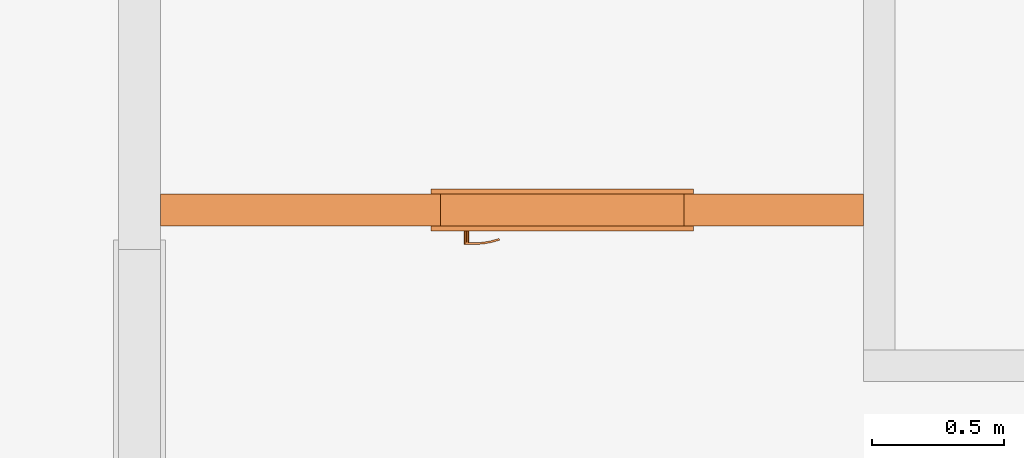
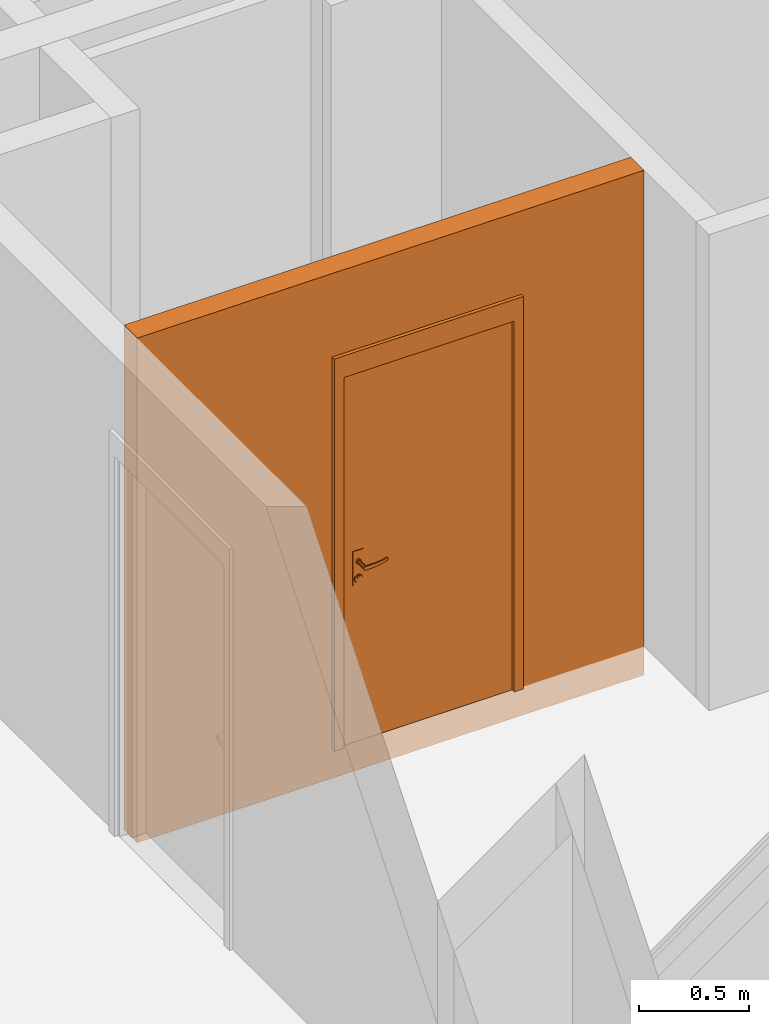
# One storey, part 36 of 67: 2 proxies, 1 opening.
"""IFC2X3 building model written with IfcOpenShell, lengths in millimetres."""

from ifc_helpers import new_model, entity, si_unit, converted_unit, derived_unit, money_unit, direction, frame, origin_with_axes, origin_2d_with_axis, place, context, subcontext, project, spatial, rectangle, extrude, open_shell, faceted_brep, surface_model, source, transform, mapped, material, type_object, element, fill, save


model = new_model("IFC2X3")

# Units and contexts
model_context = context("Model", 3, precision=0.01, world=origin_with_axes(), true_north=direction((0.34421633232, 0.938890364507)))
body_context = subcontext(model_context, "Body", "Model", "MODEL_VIEW")
ifc_project = project(units=[si_unit("LENGTHUNIT", "METRE", prefix="MILLI"), si_unit("AREAUNIT", "SQUARE_METRE"), si_unit("VOLUMEUNIT", "CUBIC_METRE"), converted_unit("PLANEANGLEUNIT", "DEGREE", entity("IfcPlaneAngleMeasure", 0.0174532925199), si_unit("PLANEANGLEUNIT", "RADIAN"), dimensions=[0, 0, 0, 0, 0, 0, 0]), si_unit("SOLIDANGLEUNIT", "STERADIAN"), money_unit("USD"), converted_unit("TIMEUNIT", "Year", entity("IfcTimeMeasure", 31556926.0), si_unit("TIMEUNIT", "SECOND"), dimensions=[0, 0, 1, 0, 0, 0, 0]), si_unit("MASSUNIT", "GRAM", prefix="KILO"), si_unit("THERMODYNAMICTEMPERATUREUNIT", "DEGREE_CELSIUS"), si_unit("LUMINOUSINTENSITYUNIT", "LUMEN"), si_unit("ENERGYUNIT", "JOULE", prefix="MEGA"), derived_unit("THERMALCONDUCTANCEUNIT", [(si_unit("POWERUNIT", "WATT"), 1), (si_unit("LENGTHUNIT", "METRE"), -1), (si_unit("THERMODYNAMICTEMPERATUREUNIT", "KELVIN"), -1)]), derived_unit("SPECIFICHEATCAPACITYUNIT", [(si_unit("ENERGYUNIT", "JOULE"), 1), (si_unit("MASSUNIT", "GRAM", prefix="KILO"), -1), (si_unit("THERMODYNAMICTEMPERATUREUNIT", "KELVIN"), -1)]), derived_unit("MASSDENSITYUNIT", [(si_unit("MASSUNIT", "GRAM", prefix="KILO"), 1), (si_unit("VOLUMEUNIT", "CUBIC_METRE"), -1)])], contexts=[model_context])

# Site, building, storey
site_placement = place(None, origin_with_axes())
site = spatial("IfcSite", under=ifc_project, at=site_placement, Name="USTRONIE MORSKIE", CompositionType="ELEMENT")
building_placement = place(site_placement, origin_with_axes())
building = spatial("IfcBuilding", under=site, at=building_placement, Name="Budynek", CompositionType="ELEMENT")
storey_placement = place(building_placement, frame((0.0, 0.0, 4000.0), z_axis=(0.0, 0.0, 1.0), x_axis=(1.0, 0.0, 0.0)))
storey = spatial("IfcBuildingStorey", under=building, at=storey_placement, Name="PIĘTRO 1", CompositionType="ELEMENT", Elevation=4000.0)

# Proxies, opening
ifc_material = material(Name="Bloczki silikatowe")
building_element_proxy_type_1 = type_object("IfcBuildingElementProxyType", Name="Bloczki silikatowe 120", PredefinedType="NOTDEFINED")
proxy_1_placement = place(storey_placement, frame((420917.920919, 724641.179437, -160.0), z_axis=(0.0, 0.0, 1.0), x_axis=(-1.0, 0.0, 0.0)))
proxy_1 = element("IfcBuildingElementProxy", 1, at=proxy_1_placement, inside=storey, type_object=building_element_proxy_type_1, material=ifc_material, Name="SW-04", context=body_context, shape_type="Brep", body=[
    faceted_brep([(2720.0, 59.9999999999, 0.0), (2720.0, -59.9999999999, 0.0), (60.0, -59.9999999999, 0.0), (60.0, 59.9999999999, 0.0), (2720.0, 59.9999999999, 2800.0), (2720.0, -59.9999999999, 2800.0), (60.0, -59.9999999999, 2800.0), (60.0, 59.9999999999, 2800.0)], [[[0, 1, 2, 3]], [[1, 0, 4, 5]], [[1, 5, 6, 2]], [[7, 3, 2, 6]], [[4, 0, 3, 7]], [[5, 4, 7, 6]]]),
])
opening_placement = place(proxy_1_placement, frame((1200.0, 1.13686837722e-10, 160.0), z_axis=(0.0, 0.0, 1.0), x_axis=(1.0, 0.0, 0.0)))
opening = element("IfcOpeningElement", 2, at=opening_placement, cuts=proxy_1, Name="Dw.4", context=body_context, shape_type="SweptSolid", body=[
    extrude(rectangle(XDim=920.0, YDim=2070.0, at=origin_2d_with_axis()), frame((0.0, -120.0, 1035.0), z_axis=(0.0, -1.0, 0.0), x_axis=(-1.0, 0.0, 0.0)), (0.0, 0.0, -1.0), 360.0),
    extrude(rectangle(XDim=994.0, YDim=2177.0, at=origin_2d_with_axis()), frame((0.0, -59.9999999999, 1088.5), z_axis=(0.0, -1.0, 0.0), x_axis=(-1.0, 0.0, 0.0)), (0.0, 0.0, 1.0), 120.0),
    extrude(rectangle(XDim=994.0, YDim=2177.0, at=origin_2d_with_axis()), frame((0.0, 60.0000000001, 1088.5), z_axis=(0.0, 1.0, 0.0), x_axis=(-1.0, 0.0, 0.0)), (0.0, 0.0, 1.0), 120.0),
])
building_element_proxy_type_2 = type_object("IfcBuildingElementProxyType", Name="Drzwi 23", PredefinedType="NOTDEFINED")
shared_shape = source(origin_with_axes(), body_context, "Body", "SurfaceModel", [
    faceted_brep([(460.0, -115.0, 0.0), (460.0, -120.0, 0.0), (435.0, -120.0, 0.0), (435.0, -115.0, 0.0), (460.0, -115.0, 2070.0), (460.0, -120.0, 2070.0), (435.0, -120.0, 2045.0), (435.0, -115.0, 2045.0)], [[[0, 1, 2, 3]], [[4, 5, 1, 0]], [[1, 5, 6, 2]], [[3, 2, 6, 7]], [[0, 3, 7, 4]], [[7, 6, 5, 4]]]),
    faceted_brep([(-460.0, -115.0, 2070.0), (-460.0, -120.0, 2070.0), (-435.0, -120.0, 2045.0), (-435.0, -115.0, 2045.0), (-460.0, -115.0, 0.0), (-460.0, -120.0, 0.0), (-435.0, -120.0, 0.0), (-435.0, -115.0, 0.0)], [[[0, 1, 2, 3]], [[4, 5, 1, 0]], [[1, 5, 6, 2]], [[3, 2, 6, 7]], [[0, 3, 7, 4]], [[7, 6, 5, 4]]]),
    faceted_brep([(435.0, -115.0, 2045.0), (435.0, -120.0, 2045.0), (-435.0, -120.0, 2045.0), (-435.0, -115.0, 2045.0), (460.0, -115.0, 2070.0), (460.0, -120.0, 2070.0), (-460.0, -120.0, 2070.0), (-460.0, -115.0, 2070.0)], [[[0, 1, 2, 3]], [[4, 5, 1, 0]], [[1, 5, 6, 2]], [[3, 2, 6, 7]], [[0, 3, 7, 4]], [[7, 6, 5, 4]]]),
    faceted_brep([(497.0, -139.0, 0.0), (447.0, -139.0, 0.0), (447.0, -120.0, 0.0), (497.0, -120.0, 0.0), (497.0, -139.0, 2177.0), (447.0, -139.0, 2057.0), (447.0, -120.0, 2057.0), (497.0, -120.0, 2177.0)], [[[0, 1, 2, 3]], [[0, 4, 5, 1]], [[1, 5, 6, 2]], [[3, 2, 6, 7]], [[4, 0, 3, 7]], [[5, 4, 7, 6]]]),
    faceted_brep([(-497.0, -139.0, 2177.0), (-447.0, -139.0, 2057.0), (-447.0, -120.0, 2057.0), (-497.0, -120.0, 2177.0), (-497.0, -139.0, 0.0), (-447.0, -139.0, 0.0), (-447.0, -120.0, 0.0), (-497.0, -120.0, 0.0)], [[[0, 1, 2, 3]], [[0, 4, 5, 1]], [[1, 5, 6, 2]], [[3, 2, 6, 7]], [[4, 0, 3, 7]], [[5, 4, 7, 6]]]),
    faceted_brep([(497.0, -139.0, 2177.0), (447.0, -139.0, 2057.0), (447.0, -120.0, 2057.0), (497.0, -120.0, 2177.0), (-497.0, -139.0, 2177.0), (-447.0, -139.0, 2057.0), (-447.0, -120.0, 2057.0), (-497.0, -120.0, 2177.0)], [[[0, 1, 2, 3]], [[0, 4, 5, 1]], [[1, 5, 6, 2]], [[3, 2, 6, 7]], [[4, 0, 3, 7]], [[5, 4, 7, 6]]]),
    faceted_brep([(497.0, 19.0, 0.0), (497.0, 0.0, 0.0), (447.0, 0.0, 0.0), (447.0, 19.0, 0.0), (497.0, 19.0, 2177.0), (497.0, 0.0, 2177.0), (447.0, 0.0, 2057.0), (447.0, 19.0, 2057.0)], [[[0, 1, 2, 3]], [[4, 5, 1, 0]], [[1, 5, 6, 2]], [[3, 2, 6, 7]], [[0, 3, 7, 4]], [[7, 6, 5, 4]]]),
    faceted_brep([(-497.0, 19.0, 2177.0), (-497.0, 0.0, 2177.0), (-447.0, 0.0, 2057.0), (-447.0, 19.0, 2057.0), (-497.0, 19.0, 0.0), (-497.0, 0.0, 0.0), (-447.0, 0.0, 0.0), (-447.0, 19.0, 0.0)], [[[0, 1, 2, 3]], [[4, 5, 1, 0]], [[1, 5, 6, 2]], [[3, 2, 6, 7]], [[0, 3, 7, 4]], [[7, 6, 5, 4]]]),
    faceted_brep([(497.0, 19.0, 2177.0), (497.0, 0.0, 2177.0), (447.0, 0.0, 2057.0), (447.0, 19.0, 2057.0), (-497.0, 19.0, 2177.0), (-497.0, 0.0, 2177.0), (-447.0, 0.0, 2057.0), (-447.0, 19.0, 2057.0)], [[[0, 1, 2, 3]], [[4, 5, 1, 0]], [[1, 5, 6, 2]], [[3, 2, 6, 7]], [[0, 3, 7, 4]], [[7, 6, 5, 4]]]),
    faceted_brep([(400.0, -40.0, 0.0), (400.0, -115.0, 0.0), (400.0, -115.0, 2000.0), (400.0, -40.0, 2000.0), (412.0, -40.0, 0.0), (412.0, 0.0, 0.0), (460.0, 0.0, 0.0), (460.0, -115.0, 0.0), (460.0, -115.0, 2000.0), (412.0, -40.0, 2000.0), (460.0, 0.0, 2000.0), (412.0, 0.0, 2000.0)], [[[0, 1, 2, 3]], [[4, 5, 6, 7, 1, 0]], [[1, 7, 8, 2]], [[9, 3, 2, 8, 10, 11]], [[9, 4, 0, 3]], [[11, 5, 4, 9]], [[11, 10, 6, 5]], [[6, 10, 8, 7]]]),
    faceted_brep([(-412.0, -40.0, 2000.0), (-412.0, 0.0, 2000.0), (-460.0, 0.0, 2000.0), (-460.0, -115.0, 2000.0), (-400.0, -115.0, 2000.0), (-400.0, -40.0, 2000.0), (-412.0, -40.0, 0.0), (-412.0, 0.0, 0.0), (-460.0, 0.0, 0.0), (-460.0, -115.0, 0.0), (-400.0, -115.0, 0.0), (-400.0, -40.0, 0.0)], [[[0, 1, 2, 3, 4, 5]], [[0, 6, 7, 1]], [[7, 8, 2, 1]], [[2, 8, 9, 3]], [[3, 9, 10, 4]], [[5, 4, 10, 11]], [[5, 11, 6, 0]], [[6, 11, 10, 9, 8, 7]]]),
    faceted_brep([(412.0, 0.0, 2012.0), (-412.0, 0.0, 2012.0), (-412.0, 0.0, 2000.0), (-460.0, 0.0, 2000.0), (-460.0, 0.0, 2070.0), (460.0, 0.0, 2070.0), (460.0, 0.0, 2000.0), (412.0, 0.0, 2000.0), (412.0, -40.0, 2012.0), (-412.0, -40.0, 2012.0), (-412.0, -40.0, 2000.0), (-400.0, -40.0, 2000.0), (-400.0, -115.0, 2000.0), (-460.0, -115.0, 2000.0), (-460.0, -115.0, 2070.0), (460.0, -115.0, 2070.0), (460.0, -115.0, 2000.0), (412.0, -40.0, 2000.0), (400.0, -115.0, 2000.0), (400.0, -40.0, 2000.0)], [[[0, 1, 2, 3, 4, 5, 6, 7]], [[0, 8, 9, 1]], [[1, 9, 10, 2]], [[10, 11, 12, 13, 3, 2]], [[4, 3, 13, 14]], [[5, 4, 14, 15]], [[6, 5, 15, 16]], [[17, 7, 6, 16, 18, 19]], [[7, 17, 8, 0]], [[10, 9, 8, 17, 19, 11]], [[19, 18, 12, 11]], [[12, 18, 16, 15, 14, 13]]]),
    faceted_brep([(390.5, -40.0, 1060.0), (333.5, -40.0, 1060.0), (333.5, -43.0, 1060.0), (390.5, -43.0, 1060.0), (390.5, -40.0, 870.0), (333.5, -40.0, 870.0), (333.5, -43.0, 870.0), (390.5, -43.0, 870.0)], [[[0, 1, 2, 3]], [[0, 4, 5, 1]], [[1, 5, 6, 2]], [[3, 2, 6, 7]], [[4, 0, 3, 7]], [[5, 4, 7, 6]]]),
    faceted_brep([(362.0, -104.0, 990.0), (367.0, -104.0, 991.339745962), (367.0, -111.0, 991.339745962), (362.0, -111.0, 990.0), (337.0, -104.0, 990.0), (337.0, -104.0, 1010.0), (362.0, -104.0, 1010.0), (367.0, -104.0, 1008.66025404), (370.660254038, -104.0, 1005.0), (372.0, -104.0, 1000.0), (370.660254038, -104.0, 995.0), (370.660254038, -111.0, 995.0), (372.0, -111.0, 1000.0), (370.660254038, -111.0, 1005.0), (367.0, -111.0, 1008.66025404), (362.0, -111.0, 1010.0), (337.0, -111.0, 1010.0), (337.0, -111.0, 990.0)], [[[0, 1, 2, 3]], [[0, 4, 5, 6, 7, 8, 9, 10, 1]], [[1, 10, 11, 2]], [[3, 2, 11, 12, 13, 14, 15, 16, 17]], [[4, 0, 3, 17]], [[5, 4, 17, 16]], [[6, 5, 16, 15]], [[7, 6, 15, 14]], [[8, 7, 14, 13]], [[9, 8, 13, 12]], [[10, 9, 12, 11]]]),
    surface_model("IfcShellBasedSurfaceModel", [(337.0, -104.0, 1010.0), (323.901717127, -104.0, 1009.60730092), (323.596090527, -111.0, 1009.60730092), (337.0, -104.0, 990.0), (323.901717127, -104.0, 990.392699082), (296.890283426, -108.663544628, 1008.82190275), (337.0, -111.0, 1010.0), (337.0, -111.0, 990.0), (297.804837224, -101.716818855, 991.178097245), (297.804837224, -101.716818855, 1008.82190275), (296.890283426, -108.663544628, 991.178097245), (323.596090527, -111.0, 990.392699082), (272.006256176, -97.1678329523, 991.963495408), (272.006256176, -97.1678329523, 1008.03650459), (270.489735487, -104.008415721, 1008.03650459), (270.489735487, -104.008415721, 991.963495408), (246.702316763, -90.3876628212, 992.748893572), (246.702316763, -90.3876628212, 1007.25110643), (244.59537082, -97.0700416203, 1007.25110643), (244.59537082, -97.0700416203, 992.748893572), (238.829442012, -87.5221707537, 993.0), (238.829442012, -87.5221707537, 1007.0), (236.538795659, -94.1376880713, 1007.0), (236.538795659, -94.1376880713, 993.0)], [open_shell([[[0, 1, 2]], [[0, 3, 4, 1]], [[1, 5, 2]], [[0, 2, 6]], [[4, 3, 7]], [[1, 4, 8, 9]], [[1, 9, 5]], [[2, 5, 10, 11]], [[6, 2, 11, 7]], [[4, 7, 11]], [[8, 4, 11]], [[9, 8, 12, 13]], [[9, 14, 5]], [[5, 14, 15, 10]], [[8, 11, 10]], [[12, 8, 10]], [[13, 12, 16, 17]], [[9, 13, 14]], [[14, 18, 19, 15]], [[12, 10, 15]], [[16, 12, 15]], [[17, 16, 20, 21]], [[13, 17, 18]], [[13, 18, 14]], [[18, 22, 23, 19]], [[16, 15, 19]], [[20, 16, 19]], [[21, 20, 23, 22]], [[17, 21, 22]], [[17, 22, 18]], [[20, 19, 23]]])]),
    faceted_brep([(351.607695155, -53.0, 994.0), (350.0, -53.0, 1000.0), (349.0, -43.0, 1000.0), (350.741669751, -43.0, 993.5), (356.0, -53.0, 989.607695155), (362.0, -53.0, 988.0), (368.0, -53.0, 989.607695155), (372.392304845, -53.0, 994.0), (374.0, -53.0, 1000.0), (372.392304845, -53.0, 1006.0), (368.0, -53.0, 1010.39230485), (362.0, -53.0, 1012.0), (356.0, -53.0, 1010.39230485), (351.607695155, -53.0, 1006.0), (350.741669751, -43.0, 1006.5), (355.5, -43.0, 1011.25833025), (362.0, -43.0, 1013.0), (368.5, -43.0, 1011.25833025), (373.258330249, -43.0, 1006.5), (375.0, -43.0, 1000.0), (373.258330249, -43.0, 993.5), (368.5, -43.0, 988.741669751), (362.0, -43.0, 987.0), (355.5, -43.0, 988.741669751)], [[[0, 1, 2, 3]], [[1, 0, 4, 5, 6, 7, 8, 9, 10, 11, 12, 13]], [[1, 13, 14, 2]], [[2, 14, 15, 16, 17, 18, 19, 20, 21, 22, 23, 3]], [[4, 0, 3, 23]], [[5, 4, 23, 22]], [[6, 5, 22, 21]], [[7, 6, 21, 20]], [[8, 7, 20, 19]], [[9, 8, 19, 18]], [[10, 9, 18, 17]], [[11, 10, 17, 16]], [[12, 11, 16, 15]], [[13, 12, 15, 14]]]),
    faceted_brep([(344.679491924, -47.0, 895.0), (342.0, -47.0, 905.0), (340.0, -43.0, 905.0), (342.947441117, -43.0, 894.0), (352.0, -47.0, 887.679491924), (362.0, -47.0, 885.0), (372.0, -47.0, 887.679491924), (379.320508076, -47.0, 895.0), (382.0, -47.0, 905.0), (379.320508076, -47.0, 915.0), (372.0, -47.0, 922.320508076), (362.0, -47.0, 925.0), (352.0, -47.0, 922.320508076), (344.679491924, -47.0, 915.0), (342.947441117, -43.0, 916.0), (351.0, -43.0, 924.052558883), (362.0, -43.0, 927.0), (373.0, -43.0, 924.052558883), (381.052558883, -43.0, 916.0), (384.0, -43.0, 905.0), (381.052558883, -43.0, 894.0), (373.0, -43.0, 885.947441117), (362.0, -43.0, 883.0), (351.0, -43.0, 885.947441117)], [[[0, 1, 2, 3]], [[1, 0, 4, 5, 6, 7, 8, 9, 10, 11, 12, 13]], [[1, 13, 14, 2]], [[2, 14, 15, 16, 17, 18, 19, 20, 21, 22, 23, 3]], [[4, 0, 3, 23]], [[5, 4, 23, 22]], [[6, 5, 22, 21]], [[7, 6, 21, 20]], [[8, 7, 20, 19]], [[9, 8, 19, 18]], [[10, 9, 18, 17]], [[11, 10, 17, 16]], [[12, 11, 16, 15]], [[13, 12, 15, 14]]]),
    faceted_brep([(357.050252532, -49.0, 909.050252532), (355.0, -49.0, 914.0), (354.0, -47.0, 914.0), (356.343145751, -47.0, 908.343145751), (362.0, -49.0, 907.0), (366.949747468, -49.0, 909.050252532), (369.0, -49.0, 914.0), (366.949747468, -49.0, 918.949747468), (362.0, -49.0, 921.0), (357.050252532, -49.0, 918.949747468), (356.343145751, -47.0, 919.656854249), (362.0, -47.0, 922.0), (367.656854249, -47.0, 919.656854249), (370.0, -47.0, 914.0), (367.656854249, -47.0, 908.343145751), (362.0, -47.0, 906.0)], [[[0, 1, 2, 3]], [[1, 0, 4, 5, 6, 7, 8, 9]], [[1, 9, 10, 2]], [[2, 10, 11, 12, 13, 14, 15, 3]], [[4, 0, 3, 15]], [[5, 4, 15, 14]], [[6, 5, 14, 13]], [[7, 6, 13, 12]], [[8, 7, 12, 11]], [[9, 8, 11, 10]]]),
    faceted_brep([(362.0, -53.0, 1010.0), (357.0, -53.0, 1008.66025404), (357.0, -104.0, 1008.66025404), (362.0, -104.0, 1010.0), (367.0, -53.0, 1008.66025404), (370.660254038, -53.0, 1005.0), (372.0, -53.0, 1000.0), (370.660254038, -53.0, 995.0), (367.0, -53.0, 991.339745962), (362.0, -53.0, 990.0), (357.0, -53.0, 991.339745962), (353.339745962, -53.0, 995.0), (352.0, -53.0, 1000.0), (353.339745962, -53.0, 1005.0), (353.339745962, -104.0, 1005.0), (352.0, -104.0, 1000.0), (353.339745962, -104.0, 995.0), (357.0, -104.0, 991.339745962), (362.0, -104.0, 990.0), (367.0, -104.0, 991.339745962), (370.660254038, -104.0, 995.0), (372.0, -104.0, 1000.0), (370.660254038, -104.0, 1005.0), (367.0, -104.0, 1008.66025404)], [[[0, 1, 2, 3]], [[0, 4, 5, 6, 7, 8, 9, 10, 11, 12, 13, 1]], [[1, 13, 14, 2]], [[3, 2, 14, 15, 16, 17, 18, 19, 20, 21, 22, 23]], [[4, 0, 3, 23]], [[5, 4, 23, 22]], [[6, 5, 22, 21]], [[7, 6, 21, 20]], [[8, 7, 20, 19]], [[9, 8, 19, 18]], [[10, 9, 18, 17]], [[11, 10, 17, 16]], [[12, 11, 16, 15]], [[13, 12, 15, 14]]]),
    faceted_brep([(390.5, 0.0, 1060.0), (390.5, 3.0, 1060.0), (333.5, 3.0, 1060.0), (333.5, 0.0, 1060.0), (390.5, 0.0, 870.0), (390.5, 3.0, 870.0), (333.5, 3.0, 870.0), (333.5, 0.0, 870.0)], [[[0, 1, 2, 3]], [[4, 5, 1, 0]], [[1, 5, 6, 2]], [[3, 2, 6, 7]], [[0, 3, 7, 4]], [[7, 6, 5, 4]]]),
    faceted_brep([(362.0, 64.0, 990.0), (362.0, 71.0, 990.0), (367.0, 71.0, 991.339745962), (367.0, 64.0, 991.339745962), (337.0, 64.0, 990.0), (337.0, 71.0, 990.0), (337.0, 71.0, 1010.0), (362.0, 71.0, 1010.0), (367.0, 71.0, 1008.66025404), (370.660254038, 71.0, 1005.0), (372.0, 71.0, 1000.0), (370.660254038, 71.0, 995.0), (370.660254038, 64.0, 995.0), (372.0, 64.0, 1000.0), (370.660254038, 64.0, 1005.0), (367.0, 64.0, 1008.66025404), (362.0, 64.0, 1010.0), (337.0, 64.0, 1010.0)], [[[0, 1, 2, 3]], [[4, 5, 1, 0]], [[1, 5, 6, 7, 8, 9, 10, 11, 2]], [[3, 2, 11, 12]], [[0, 3, 12, 13, 14, 15, 16, 17, 4]], [[17, 6, 5, 4]], [[16, 7, 6, 17]], [[15, 8, 7, 16]], [[14, 9, 8, 15]], [[13, 10, 9, 14]], [[12, 11, 10, 13]]]),
    surface_model("IfcShellBasedSurfaceModel", [(337.0, 64.0, 1010.0), (323.596090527, 71.0, 1009.60730092), (323.901717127, 64.0, 1009.60730092), (337.0, 71.0, 1010.0), (296.890283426, 68.6635446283, 1008.82190275), (323.901717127, 64.0, 990.392699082), (337.0, 64.0, 990.0), (337.0, 71.0, 990.0), (323.596090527, 71.0, 990.392699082), (296.890283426, 68.6635446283, 991.178097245), (297.804837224, 61.716818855, 1008.82190275), (297.804837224, 61.716818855, 991.178097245), (270.489735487, 64.0084157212, 991.963495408), (270.489735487, 64.0084157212, 1008.03650459), (272.006256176, 57.1678329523, 1008.03650459), (272.006256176, 57.1678329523, 991.963495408), (244.59537082, 57.0700416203, 992.748893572), (244.59537082, 57.0700416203, 1007.25110643), (246.702316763, 50.3876628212, 1007.25110643), (246.702316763, 50.3876628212, 992.748893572), (236.538795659, 54.1376880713, 993.0), (236.538795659, 54.1376880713, 1007.0), (238.829442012, 47.5221707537, 1007.0), (238.829442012, 47.5221707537, 993.0)], [open_shell([[[0, 1, 2]], [[0, 3, 1]], [[2, 1, 4]], [[0, 2, 5, 6]], [[3, 7, 8, 1]], [[1, 8, 9, 4]], [[2, 4, 10]], [[2, 10, 11, 5]], [[5, 7, 6]], [[5, 8, 7]], [[11, 9, 8]], [[4, 9, 12, 13]], [[10, 4, 13]], [[10, 14, 15, 11]], [[11, 8, 5]], [[15, 9, 11]], [[15, 12, 9]], [[13, 12, 16, 17]], [[10, 13, 14]], [[14, 18, 19, 15]], [[19, 12, 15]], [[19, 16, 12]], [[17, 16, 20, 21]], [[14, 13, 17]], [[14, 17, 18]], [[18, 22, 23, 19]], [[23, 16, 19]], [[23, 20, 16]], [[22, 21, 20, 23]], [[18, 17, 21]], [[18, 21, 22]]])]),
    faceted_brep([(351.607695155, 13.0, 994.0), (350.741669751, 3.0, 993.5), (349.0, 3.0, 1000.0), (350.0, 13.0, 1000.0), (356.0, 13.0, 989.607695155), (355.5, 3.0, 988.741669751), (362.0, 3.0, 987.0), (368.5, 3.0, 988.741669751), (373.258330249, 3.0, 993.5), (375.0, 3.0, 1000.0), (373.258330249, 3.0, 1006.5), (368.5, 3.0, 1011.25833025), (362.0, 3.0, 1013.0), (355.5, 3.0, 1011.25833025), (350.741669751, 3.0, 1006.5), (351.607695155, 13.0, 1006.0), (356.0, 13.0, 1010.39230485), (362.0, 13.0, 1012.0), (368.0, 13.0, 1010.39230485), (372.392304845, 13.0, 1006.0), (374.0, 13.0, 1000.0), (372.392304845, 13.0, 994.0), (368.0, 13.0, 989.607695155), (362.0, 13.0, 988.0)], [[[0, 1, 2, 3]], [[4, 5, 1, 0]], [[2, 1, 5, 6, 7, 8, 9, 10, 11, 12, 13, 14]], [[3, 2, 14, 15]], [[3, 15, 16, 17, 18, 19, 20, 21, 22, 23, 4, 0]], [[23, 6, 5, 4]], [[22, 7, 6, 23]], [[21, 8, 7, 22]], [[20, 9, 8, 21]], [[19, 10, 9, 20]], [[18, 11, 10, 19]], [[17, 12, 11, 18]], [[16, 13, 12, 17]], [[15, 14, 13, 16]]]),
    faceted_brep([(344.679491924, 7.0, 895.0), (342.947441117, 3.0, 894.0), (340.0, 3.0, 905.0), (342.0, 7.0, 905.0), (352.0, 7.0, 887.679491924), (351.0, 3.0, 885.947441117), (362.0, 3.0, 883.0), (373.0, 3.0, 885.947441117), (381.052558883, 3.0, 894.0), (384.0, 3.0, 905.0), (381.052558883, 3.0, 916.0), (373.0, 3.0, 924.052558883), (362.0, 3.0, 927.0), (351.0, 3.0, 924.052558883), (342.947441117, 3.0, 916.0), (344.679491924, 7.0, 915.0), (352.0, 7.0, 922.320508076), (362.0, 7.0, 925.0), (372.0, 7.0, 922.320508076), (379.320508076, 7.0, 915.0), (382.0, 7.0, 905.0), (379.320508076, 7.0, 895.0), (372.0, 7.0, 887.679491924), (362.0, 7.0, 885.0)], [[[0, 1, 2, 3]], [[4, 5, 1, 0]], [[2, 1, 5, 6, 7, 8, 9, 10, 11, 12, 13, 14]], [[3, 2, 14, 15]], [[3, 15, 16, 17, 18, 19, 20, 21, 22, 23, 4, 0]], [[23, 6, 5, 4]], [[22, 7, 6, 23]], [[21, 8, 7, 22]], [[20, 9, 8, 21]], [[19, 10, 9, 20]], [[18, 11, 10, 19]], [[17, 12, 11, 18]], [[16, 13, 12, 17]], [[15, 14, 13, 16]]]),
    faceted_brep([(357.050252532, 9.0, 909.050252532), (356.343145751, 7.0, 908.343145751), (354.0, 7.0, 914.0), (355.0, 9.0, 914.0), (362.0, 9.0, 907.0), (362.0, 7.0, 906.0), (367.656854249, 7.0, 908.343145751), (370.0, 7.0, 914.0), (367.656854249, 7.0, 919.656854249), (362.0, 7.0, 922.0), (356.343145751, 7.0, 919.656854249), (357.050252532, 9.0, 918.949747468), (362.0, 9.0, 921.0), (366.949747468, 9.0, 918.949747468), (369.0, 9.0, 914.0), (366.949747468, 9.0, 909.050252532)], [[[0, 1, 2, 3]], [[4, 5, 1, 0]], [[2, 1, 5, 6, 7, 8, 9, 10]], [[3, 2, 10, 11]], [[3, 11, 12, 13, 14, 15, 4, 0]], [[15, 6, 5, 4]], [[14, 7, 6, 15]], [[13, 8, 7, 14]], [[12, 9, 8, 13]], [[11, 10, 9, 12]]]),
    faceted_brep([(362.0, 13.0, 1010.0), (362.0, 64.0, 1010.0), (357.0, 64.0, 1008.66025404), (357.0, 13.0, 1008.66025404), (367.0, 13.0, 1008.66025404), (367.0, 64.0, 1008.66025404), (370.660254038, 64.0, 1005.0), (372.0, 64.0, 1000.0), (370.660254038, 64.0, 995.0), (367.0, 64.0, 991.339745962), (362.0, 64.0, 990.0), (357.0, 64.0, 991.339745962), (353.339745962, 64.0, 995.0), (352.0, 64.0, 1000.0), (353.339745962, 64.0, 1005.0), (353.339745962, 13.0, 1005.0), (352.0, 13.0, 1000.0), (353.339745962, 13.0, 995.0), (357.0, 13.0, 991.339745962), (362.0, 13.0, 990.0), (367.0, 13.0, 991.339745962), (370.660254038, 13.0, 995.0), (372.0, 13.0, 1000.0), (370.660254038, 13.0, 1005.0)], [[[0, 1, 2, 3]], [[4, 5, 1, 0]], [[1, 5, 6, 7, 8, 9, 10, 11, 12, 13, 14, 2]], [[3, 2, 14, 15]], [[0, 3, 15, 16, 17, 18, 19, 20, 21, 22, 23, 4]], [[23, 6, 5, 4]], [[22, 7, 6, 23]], [[21, 8, 7, 22]], [[20, 9, 8, 21]], [[19, 10, 9, 20]], [[18, 11, 10, 19]], [[17, 12, 11, 18]], [[16, 13, 12, 17]], [[15, 14, 13, 16]]]),
    faceted_brep([(-412.0, 0.0, 0.0), (412.0, 0.0, 0.0), (412.0, -40.0, 0.0), (-412.0, -40.0, 0.0), (-412.0, 0.0, 2012.0), (412.0, 0.0, 2012.0), (412.0, -40.0, 2012.0), (-412.0, -40.0, 2012.0)], [[[0, 1, 2, 3]], [[0, 4, 5, 1]], [[1, 5, 6, 2]], [[3, 2, 6, 7]], [[4, 0, 3, 7]], [[5, 4, 7, 6]]]),
])
proxy_2_placement = place(opening_placement, frame((-400.0, 0.0, 0.0), z_axis=(0.0, 0.0, 1.0), x_axis=(1.0, 0.0, 0.0)))
proxy_2 = element("IfcBuildingElementProxy", 3, at=proxy_2_placement, inside=storey, type_object=building_element_proxy_type_2, Name="Dw.4", context=body_context, shape_type="MappedRepresentation", body=[
    mapped(shared_shape, transform((400.0, 60.0000000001, 0.0))),
])
fill(opening, proxy_2)

save(model, "model.ifc")
